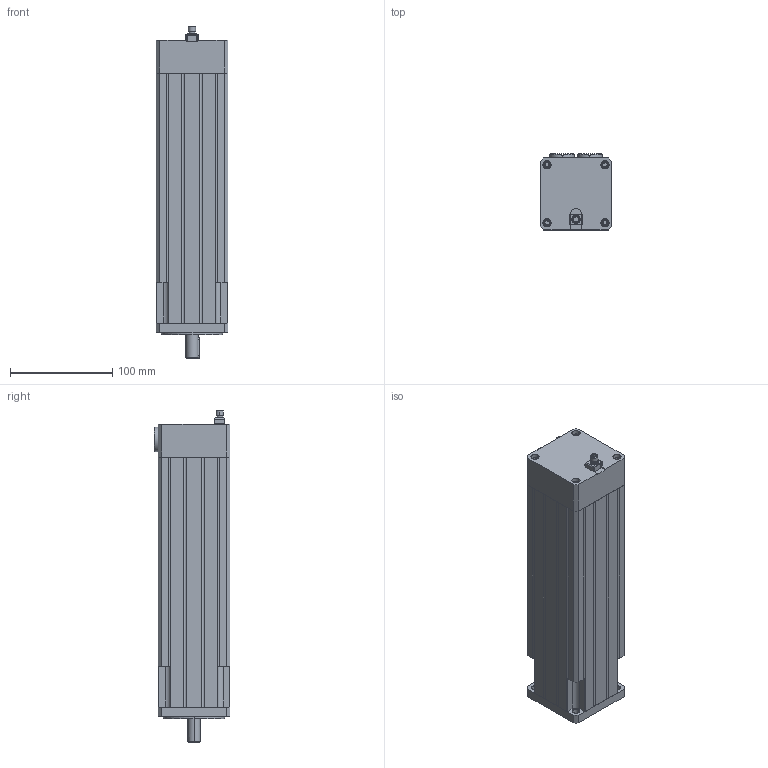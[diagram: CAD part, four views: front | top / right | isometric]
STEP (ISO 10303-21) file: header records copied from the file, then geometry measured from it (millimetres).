
FILE_DESCRIPTION (( 'STEP AP203' ), '1' );
FILE_NAME ('BTS070-04R2AC-EXD ZA.V1.STEP', '2023-03-08T02:18:33', ( 'Admin' ), ( '' ), 'SwSTEP 2.0', 'SolidWorks 2021', '' );
FILE_SCHEMA (( 'CONFIG_CONTROL_DESIGN' ));
Length unit declared in the file: millimetre
Products named in the file (1): BTS070-04R2AC-EXD  ZA.V1
Bounding box: 70 x 74 x 324 mm (x, y, z)
Volume: 1355852.1 mm3; surface area: 122843.7 mm2
Topology: 21 solids, 21 shells, 459 faces, 1098 edges, 704 vertices
Faces by surface type: plane 228, cylinder 176, torus 30, cone 25
Entity records: 13384 total; most frequent: DIRECTION 2409, CARTESIAN_POINT 2332, ORIENTED_EDGE 2152, EDGE_CURVE 1076, AXIS2_PLACEMENT_3D 885, VERTEX_POINT 704, VECTOR 639, LINE 639
